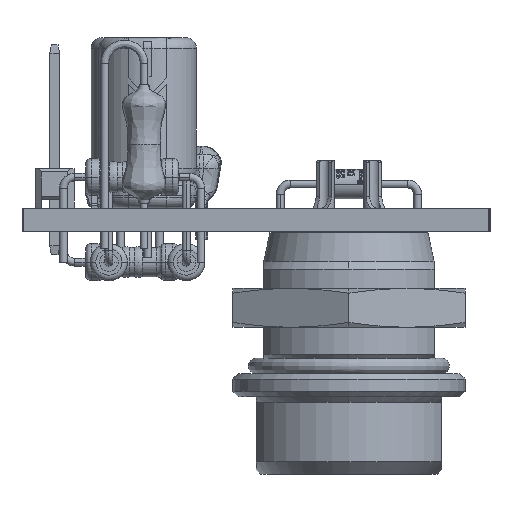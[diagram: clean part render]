
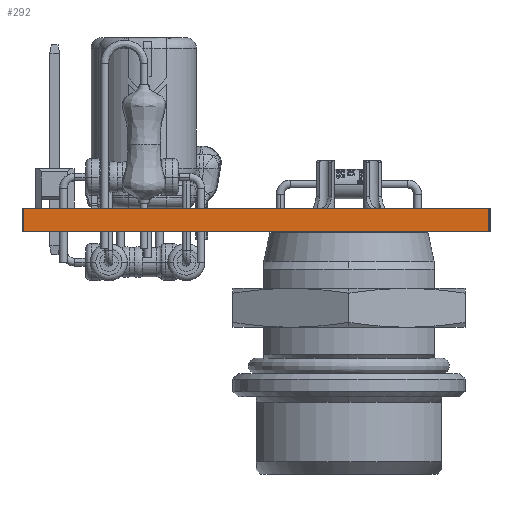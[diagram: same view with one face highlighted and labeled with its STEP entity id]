
A CAD part, front view. The second image highlights one B-rep face of the part: STEP entity #292.
In plain terms, the highlighted planar face has unit normal (0, -1, 0).
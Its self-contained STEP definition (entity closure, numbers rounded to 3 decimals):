
#151 = PLANE('',#152);
#152 = AXIS2_PLACEMENT_3D('',#153,#154,#155);
#153 = CARTESIAN_POINT('',(-0.109,0.,1.491));
#154 = DIRECTION('',(0.,0.,-1.));
#155 = DIRECTION('',(-1.,0.,0.));
#179 = PLANE('',#180);
#180 = AXIS2_PLACEMENT_3D('',#181,#182,#183);
#181 = CARTESIAN_POINT('',(-0.077,-0.077,0.)
  );
#182 = DIRECTION('',(0.293,0.956,0.));
#183 = DIRECTION('',(0.956,-0.293,0.));
#205 = PLANE('',#206);
#206 = AXIS2_PLACEMENT_3D('',#207,#208,#209);
#207 = CARTESIAN_POINT('',(-0.109,0.,0.));
#208 = DIRECTION('',(0.,0.,-1.));
#209 = DIRECTION('',(-1.,0.,0.));
#222 = VERTEX_POINT('',#223);
#223 = CARTESIAN_POINT('',(0.,-0.1,1.491));
#244 = EDGE_CURVE('',#245,#222,#247,.T.);
#245 = VERTEX_POINT('',#246);
#246 = CARTESIAN_POINT('',(0.,-0.1,0.));
#247 = SURFACE_CURVE('',#248,(#252,#259),.PCURVE_S1.);
#248 = LINE('',#249,#250);
#249 = CARTESIAN_POINT('',(0.,-0.1,0.));
#250 = VECTOR('',#251,1.);
#251 = DIRECTION('',(0.,0.,1.));
#252 = PCURVE('',#179,#253);
#253 = DEFINITIONAL_REPRESENTATION('',(#254),#258);
#254 = LINE('',#255,#256);
#255 = CARTESIAN_POINT('',(0.08,0.));
#256 = VECTOR('',#257,1.);
#257 = DIRECTION('',(0.,-1.));
#258 = ( GEOMETRIC_REPRESENTATION_CONTEXT(2) 
PARAMETRIC_REPRESENTATION_CONTEXT() REPRESENTATION_CONTEXT('2D SPACE',''
  ) );
#259 = PCURVE('',#260,#265);
#260 = PLANE('',#261);
#261 = AXIS2_PLACEMENT_3D('',#262,#263,#264);
#262 = CARTESIAN_POINT('',(0.,-0.1,0.));
#263 = DIRECTION('',(0.,1.,0.));
#264 = DIRECTION('',(1.,0.,0.));
#265 = DEFINITIONAL_REPRESENTATION('',(#266),#270);
#266 = LINE('',#267,#268);
#267 = CARTESIAN_POINT('',(0.,0.));
#268 = VECTOR('',#269,1.);
#269 = DIRECTION('',(0.,-1.));
#270 = ( GEOMETRIC_REPRESENTATION_CONTEXT(2) 
PARAMETRIC_REPRESENTATION_CONTEXT() REPRESENTATION_CONTEXT('2D SPACE',''
  ) );
#292 = ADVANCED_FACE('',(#293),#260,.F.);
#293 = FACE_BOUND('',#294,.F.);
#294 = EDGE_LOOP('',(#295,#296,#319,#347));
#295 = ORIENTED_EDGE('',*,*,#244,.T.);
#296 = ORIENTED_EDGE('',*,*,#297,.T.);
#297 = EDGE_CURVE('',#222,#298,#300,.T.);
#298 = VERTEX_POINT('',#299);
#299 = CARTESIAN_POINT('',(30.,-0.109,1.491));
#300 = SURFACE_CURVE('',#301,(#305,#312),.PCURVE_S1.);
#301 = LINE('',#302,#303);
#302 = CARTESIAN_POINT('',(0.,-0.1,1.491));
#303 = VECTOR('',#304,1.);
#304 = DIRECTION('',(1.,0.,0.));
#305 = PCURVE('',#260,#306);
#306 = DEFINITIONAL_REPRESENTATION('',(#307),#311);
#307 = LINE('',#308,#309);
#308 = CARTESIAN_POINT('',(0.,-1.491));
#309 = VECTOR('',#310,1.);
#310 = DIRECTION('',(1.,0.));
#311 = ( GEOMETRIC_REPRESENTATION_CONTEXT(2) 
PARAMETRIC_REPRESENTATION_CONTEXT() REPRESENTATION_CONTEXT('2D SPACE',''
  ) );
#312 = PCURVE('',#151,#313);
#313 = DEFINITIONAL_REPRESENTATION('',(#314),#318);
#314 = LINE('',#315,#316);
#315 = CARTESIAN_POINT('',(-0.109,-0.1));
#316 = VECTOR('',#317,1.);
#317 = DIRECTION('',(-1.,0.));
#318 = ( GEOMETRIC_REPRESENTATION_CONTEXT(2) 
PARAMETRIC_REPRESENTATION_CONTEXT() REPRESENTATION_CONTEXT('2D SPACE',''
  ) );
#319 = ORIENTED_EDGE('',*,*,#320,.F.);
#320 = EDGE_CURVE('',#321,#298,#323,.T.);
#321 = VERTEX_POINT('',#322);
#322 = CARTESIAN_POINT('',(30.,-0.109,0.));
#323 = SURFACE_CURVE('',#324,(#328,#335),.PCURVE_S1.);
#324 = LINE('',#325,#326);
#325 = CARTESIAN_POINT('',(30.,-0.109,0.));
#326 = VECTOR('',#327,1.);
#327 = DIRECTION('',(0.,0.,1.));
#328 = PCURVE('',#260,#329);
#329 = DEFINITIONAL_REPRESENTATION('',(#330),#334);
#330 = LINE('',#331,#332);
#331 = CARTESIAN_POINT('',(30.,0.));
#332 = VECTOR('',#333,1.);
#333 = DIRECTION('',(0.,-1.));
#334 = ( GEOMETRIC_REPRESENTATION_CONTEXT(2) 
PARAMETRIC_REPRESENTATION_CONTEXT() REPRESENTATION_CONTEXT('2D SPACE',''
  ) );
#335 = PCURVE('',#336,#341);
#336 = PLANE('',#337);
#337 = AXIS2_PLACEMENT_3D('',#338,#339,#340);
#338 = CARTESIAN_POINT('',(30.,-0.109,0.));
#339 = DIRECTION('',(-0.383,0.924,0.));
#340 = DIRECTION('',(0.924,0.383,0.));
#341 = DEFINITIONAL_REPRESENTATION('',(#342),#346);
#342 = LINE('',#343,#344);
#343 = CARTESIAN_POINT('',(0.,0.));
#344 = VECTOR('',#345,1.);
#345 = DIRECTION('',(0.,-1.));
#346 = ( GEOMETRIC_REPRESENTATION_CONTEXT(2) 
PARAMETRIC_REPRESENTATION_CONTEXT() REPRESENTATION_CONTEXT('2D SPACE',''
  ) );
#347 = ORIENTED_EDGE('',*,*,#348,.F.);
#348 = EDGE_CURVE('',#245,#321,#349,.T.);
#349 = SURFACE_CURVE('',#350,(#354,#361),.PCURVE_S1.);
#350 = LINE('',#351,#352);
#351 = CARTESIAN_POINT('',(0.,-0.1,0.));
#352 = VECTOR('',#353,1.);
#353 = DIRECTION('',(1.,0.,0.));
#354 = PCURVE('',#260,#355);
#355 = DEFINITIONAL_REPRESENTATION('',(#356),#360);
#356 = LINE('',#357,#358);
#357 = CARTESIAN_POINT('',(0.,0.));
#358 = VECTOR('',#359,1.);
#359 = DIRECTION('',(1.,0.));
#360 = ( GEOMETRIC_REPRESENTATION_CONTEXT(2) 
PARAMETRIC_REPRESENTATION_CONTEXT() REPRESENTATION_CONTEXT('2D SPACE',''
  ) );
#361 = PCURVE('',#205,#362);
#362 = DEFINITIONAL_REPRESENTATION('',(#363),#367);
#363 = LINE('',#364,#365);
#364 = CARTESIAN_POINT('',(-0.109,-0.1));
#365 = VECTOR('',#366,1.);
#366 = DIRECTION('',(-1.,0.));
#367 = ( GEOMETRIC_REPRESENTATION_CONTEXT(2) 
PARAMETRIC_REPRESENTATION_CONTEXT() REPRESENTATION_CONTEXT('2D SPACE',''
  ) );
